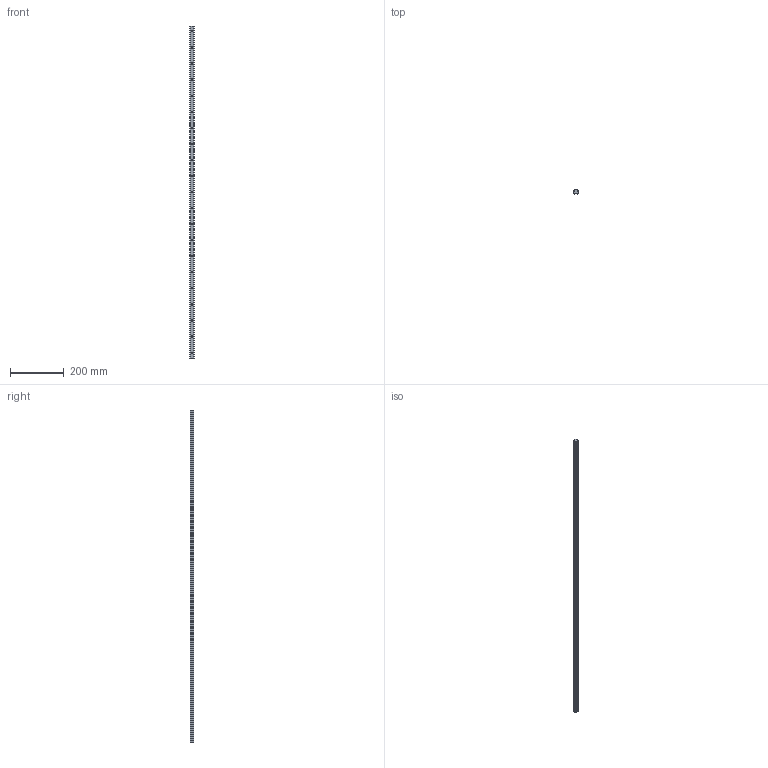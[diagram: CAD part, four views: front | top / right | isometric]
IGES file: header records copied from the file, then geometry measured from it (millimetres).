
Start section: SolidWorks IGES file using analytic representation for surfaces
Global section: file name: C:\Users\IanO\Desktop\L1016_v2\L1016.BL15_v2\L1016.BL15_v2_20190611_IGES\L1016.BL15-1240.igs; native system: SolidWorks 2017; preprocessor: SolidWorks 2017; author: IanO; date: 190612.122807; units: millimetre
Bounding box: 15 x 13 x 1240 mm (x, y, z)
Surface area: 75973.9 mm2 (no closed solid volume)
Topology: 0 solids, 0 shells, 131 faces, 3176 edges, 3176 vertices
Faces by surface type: revolution 88, bspline 43
